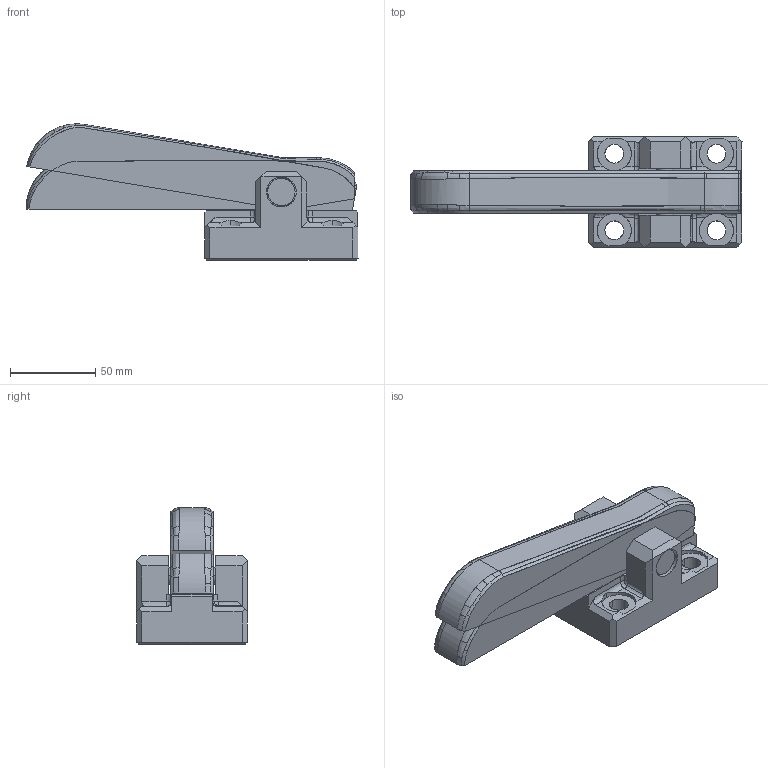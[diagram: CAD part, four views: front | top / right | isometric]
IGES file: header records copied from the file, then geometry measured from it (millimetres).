
Global section: file name: E:\UnigraphicsGraphicData\MISUMI_PRESS-PARTS\IGES\3d_slces20s_01830_r00.igs; native system: NX V5.0; preprocessor: UGS NX IGES V5.0; author: MISUMI; date: 20110105.162752; units: millimetre
Bounding box: 195 x 65 x 79.99 mm (x, y, z)
Surface area: 75992.5 mm2 (no closed solid volume)
Topology: 0 solids, 0 shells, 229 faces, 1618 edges, 1618 vertices
Faces by surface type: bspline 229
